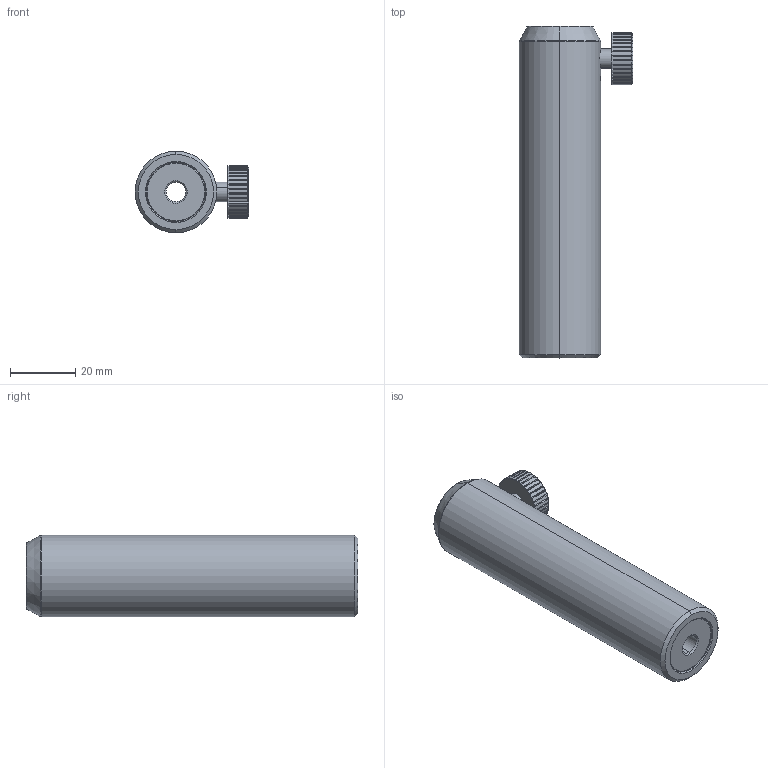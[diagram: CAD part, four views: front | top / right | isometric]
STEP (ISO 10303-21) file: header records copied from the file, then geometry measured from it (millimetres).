
FILE_DESCRIPTION (( 'STEP AP203' ), '1' );
FILE_NAME ('PH-4.STEP', '2016-11-29T08:45:13', ( '' ), ( '' ), 'SwSTEP 2.0', 'SolidWorks 2012', '' );
FILE_SCHEMA (( 'CONFIG_CONTROL_DESIGN' ));
Length unit declared in the file: millimetre
Products named in the file (1): PH-4
Bounding box: 34.84 x 101.6 x 25 mm (x, y, z)
Volume: 37657.9 mm3; surface area: 15500.2 mm2
Topology: 6 solids, 6 shells, 218 faces, 572 edges, 372 vertices
Faces by surface type: plane 113, cylinder 78, cone 18, torus 4, sphere 3, bspline 2
Entity records: 9130 total; most frequent: CARTESIAN_POINT 3733, ORIENTED_EDGE 1132, DIRECTION 1077, EDGE_CURVE 566, AXIS2_PLACEMENT_3D 395, VERTEX_POINT 369, LINE 287, VECTOR 287
